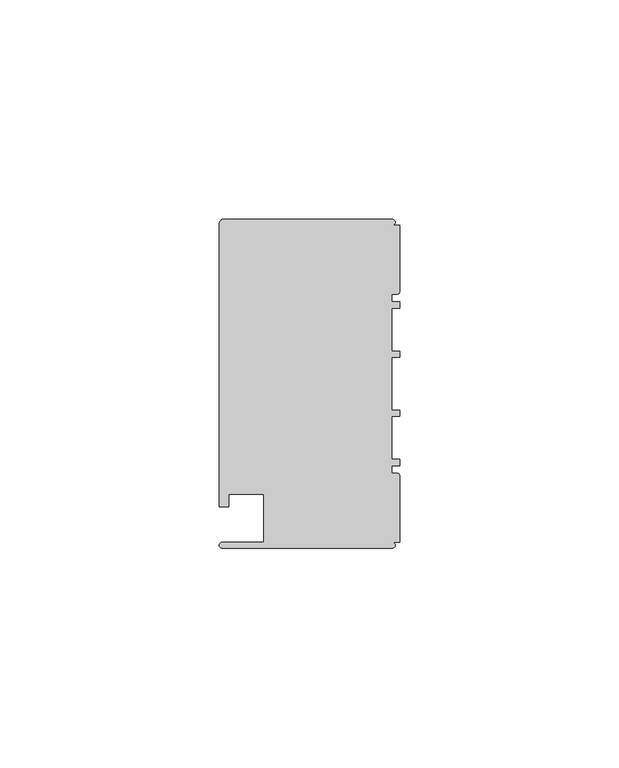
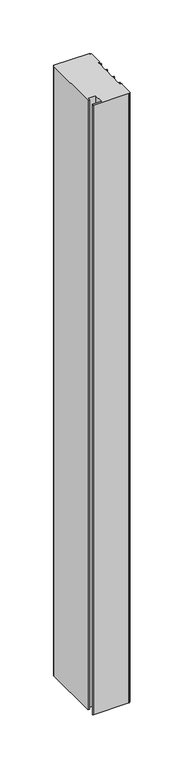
"""IFC4 building model written with IfcOpenShell, lengths in millimetres: member geometry, Прямоугольный импост : 1-AMG-1-Профиль 40Х75 Верх П."""

from ifc_helpers import new_model, si_unit, point, frame, frame_2d, origin, place, context, project, spatial, polyline, circle_curve, trimmed, segment, composite_curve, outline, extrude, source, transform, mapped, element, save


def member_ba2e8d0c(model_context):
    return source(origin(), model_context, "Body", "SweptSolid", [
        extrude(outline(composite_curve([segment(polyline([(-1.7, -37.5), (-40.4, -37.5)]), True, "CONTINUOUS"), segment(trimmed(circle_curve(frame_2d((-40.4, -36.8)), 0.7), [point((-40.4, -37.5))], [point((-40.4, -36.1))], False, "CARTESIAN"), True, "CONTINUOUS"), segment(polyline([(-40.4, -36.1), (-31.0, -36.1), (-31.0, -25.25), (-39.0, -25.25), (-39.0, -28.1), (-41.1, -28.1), (-41.1, 36.1)]), True, "CONTINUOUS"), segment(trimmed(circle_curve(frame_2d((-39.7541527, 36.3020763)), 1.3609334), [point((-41.1, 36.1))], [point((-40.4, 37.5))], False, "CARTESIAN"), True, "CONTINUOUS"), segment(polyline([(-40.4, 37.5), (-1.7, 37.5)]), True, "CONTINUOUS"), segment(trimmed(circle_curve(frame_2d((-1.7, 36.8)), 0.7), [point((-1.7, 37.5))], [point((-1.7, 36.1))], False, "CARTESIAN"), True, "CONTINUOUS"), segment(polyline([(-1.7, 36.1), (0.0, 36.1), (0.0, 20.95)]), True, "CONTINUOUS"), segment(trimmed(circle_curve(frame_2d((-0.5, 20.95)), 0.5), [point((0.0, 20.95))], [point((-0.5, 20.45))], False, "CARTESIAN"), True, "CONTINUOUS"), segment(polyline([(-0.5, 20.45), (-1.8, 20.45), (-1.8, 18.65), (0.0, 18.65), (0.0, 17.25), (-1.8, 17.25), (-1.8, 7.4), (0.0, 7.4), (0.0, 6.0), (-1.8, 6.0), (-1.8, -6.0), (0.0, -6.0), (0.0, -7.4), (-1.8, -7.4), (-1.8, -17.25), (0.0, -17.25), (0.0, -18.65), (-1.8, -18.65), (-1.8, -20.45), (-0.5, -20.45)]), True, "CONTINUOUS"), segment(trimmed(circle_curve(frame_2d((-0.5, -20.95)), 0.5), [point((-0.5, -20.45))], [point((0.0, -20.95))], False, "CARTESIAN"), True, "CONTINUOUS"), segment(polyline([(0.0, -20.95), (0.0, -36.1), (-1.7, -36.1)]), True, "CONTINUOUS"), segment(trimmed(circle_curve(frame_2d((-1.7, -36.8)), 0.7), [point((-1.7, -36.1))], [point((-1.7, -37.5))], False, "CARTESIAN"), True, "CONTINUOUS")], self_intersect=False)), frame((0.0, 0.0, -700.0), z_axis=(0.0, 0.0, 1.0), x_axis=(1.0, 0.0, 0.0)), (0.0, 0.0, 1.0), 700.0),
    ])


if __name__ == "__main__":
    model = new_model("IFC4")
    model_context = context("Model", 3, world=origin())
    ifc_project = project(units=[si_unit("LENGTHUNIT", "METRE", prefix="MILLI")], contexts=[model_context])
    site = spatial("IfcSite", under=ifc_project)
    building = spatial("IfcBuilding", under=site)
    placement = place(None, origin())
    member_shape = member_ba2e8d0c(model_context)
    element("IfcMember", 1, ObjectType="Прямоугольный импост : 1-AMG-1-Профиль 40Х75 Верх П", at=placement, inside=building, context=model_context, shape_type="MappedRepresentation", body=[
        mapped(member_shape, transform((0.0, 0.0, 0.0), x_axis=(1.0, 0.0, 0.0), y_axis=(0.0, 1.0, 0.0), z_axis=(0.0, 0.0, 1.0))),
    ])
    save(model, "model.ifc")
